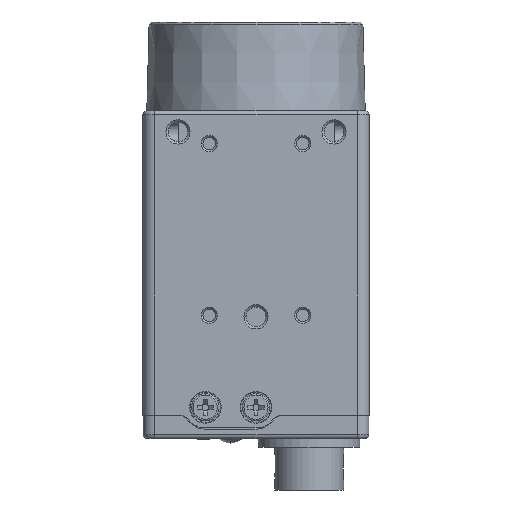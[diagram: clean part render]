
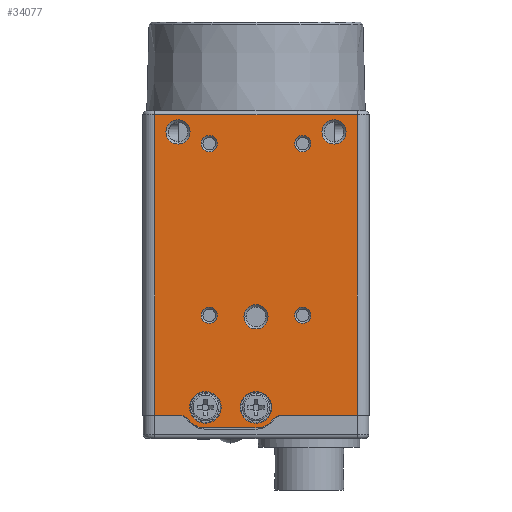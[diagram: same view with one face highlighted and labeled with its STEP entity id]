
A CAD part, front view. The second image highlights one B-rep face of the part: STEP entity #34077.
In plain terms, the highlighted planar face has unit normal (0, -1, 0).
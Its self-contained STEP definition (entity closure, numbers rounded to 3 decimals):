
#4117=DIRECTION('',(0.,0.,1.));
#4118=VECTOR('',#4117,38.5);
#4119=CARTESIAN_POINT('',(13.,-14.5,-39.));
#4120=LINE('',#4119,#4118);
#4131=CARTESIAN_POINT('',(-6.5,-14.5,-38.));
#4132=DIRECTION('',(0.,1.,0.));
#4133=DIRECTION('',(0.,0.,-1.));
#4134=AXIS2_PLACEMENT_3D('',#4131,#4132,#4133);
#4139=CARTESIAN_POINT('',(-9.812,-14.5,-40.5));
#4140=DIRECTION('',(0.,-1.,0.));
#4141=DIRECTION('',(0.798,0.,0.602));
#4142=AXIS2_PLACEMENT_3D('',#4139,#4140,#4141);
#4147=DIRECTION('',(-1.,0.,0.));
#4148=VECTOR('',#4147,3.188);
#4149=CARTESIAN_POINT('',(-9.812,-14.5,-39.));
#4150=LINE('',#4149,#4148);
#4154=DIRECTION('',(-1.,0.,0.));
#4155=VECTOR('',#4154,9.688);
#4156=CARTESIAN_POINT('',(13.,-14.5,-39.));
#4157=LINE('',#4156,#4155);
#4161=CARTESIAN_POINT('',(3.312,-14.5,-40.5));
#4162=DIRECTION('',(0.,-1.,0.));
#4163=DIRECTION('',(0.,0.,1.));
#4164=AXIS2_PLACEMENT_3D('',#4161,#4162,#4163);
#4169=CARTESIAN_POINT('',(0.,-14.5,-38.));
#4170=DIRECTION('',(0.,1.,0.));
#4171=DIRECTION('',(0.798,0.,-0.602));
#4172=AXIS2_PLACEMENT_3D('',#4169,#4170,#4171);
#4177=DIRECTION('',(-1.,0.,0.));
#4178=VECTOR('',#4177,6.5);
#4179=CARTESIAN_POINT('',(0.,-14.5,-40.65));
#4180=LINE('',#4179,#4178);
#4184=CARTESIAN_POINT('',(-6.5,-14.5,-38.));
#4185=DIRECTION('',(0.,-1.,0.));
#4186=DIRECTION('',(0.,0.,1.));
#4187=AXIS2_PLACEMENT_3D('',#4184,#4185,#4186);
#4192=CARTESIAN_POINT('',(-6.5,-14.5,-38.));
#4193=DIRECTION('',(0.,-1.,0.));
#4194=DIRECTION('',(0.,0.,-1.));
#4195=AXIS2_PLACEMENT_3D('',#4192,#4193,#4194);
#4200=CARTESIAN_POINT('',(10.,-14.5,-2.7));
#4201=DIRECTION('',(0.,-1.,0.));
#4202=DIRECTION('',(0.,0.,-1.));
#4203=AXIS2_PLACEMENT_3D('',#4200,#4201,#4202);
#4208=CARTESIAN_POINT('',(10.,-14.5,-2.7));
#4209=DIRECTION('',(0.,-1.,0.));
#4210=DIRECTION('',(0.,0.,1.));
#4211=AXIS2_PLACEMENT_3D('',#4208,#4209,#4210);
#4216=CARTESIAN_POINT('',(6.,-14.5,-4.2));
#4217=DIRECTION('',(0.,-1.,0.));
#4218=DIRECTION('',(0.,0.,-1.));
#4219=AXIS2_PLACEMENT_3D('',#4216,#4217,#4218);
#4224=CARTESIAN_POINT('',(6.,-14.5,-4.2));
#4225=DIRECTION('',(0.,-1.,0.));
#4226=DIRECTION('',(0.,0.,1.));
#4227=AXIS2_PLACEMENT_3D('',#4224,#4225,#4226);
#4232=CARTESIAN_POINT('',(-6.,-14.5,-4.2));
#4233=DIRECTION('',(0.,-1.,0.));
#4234=DIRECTION('',(0.,0.,-1.));
#4235=AXIS2_PLACEMENT_3D('',#4232,#4233,#4234);
#4240=CARTESIAN_POINT('',(-6.,-14.5,-4.2));
#4241=DIRECTION('',(0.,-1.,0.));
#4242=DIRECTION('',(0.,0.,1.));
#4243=AXIS2_PLACEMENT_3D('',#4240,#4241,#4242);
#4248=CARTESIAN_POINT('',(-10.,-14.5,-2.7));
#4249=DIRECTION('',(0.,-1.,0.));
#4250=DIRECTION('',(0.,0.,-1.));
#4251=AXIS2_PLACEMENT_3D('',#4248,#4249,#4250);
#4256=CARTESIAN_POINT('',(-10.,-14.5,-2.7));
#4257=DIRECTION('',(0.,-1.,0.));
#4258=DIRECTION('',(0.,0.,1.));
#4259=AXIS2_PLACEMENT_3D('',#4256,#4257,#4258);
#4264=CARTESIAN_POINT('',(0.,-14.5,-38.));
#4265=DIRECTION('',(0.,-1.,0.));
#4266=DIRECTION('',(0.,0.,1.));
#4267=AXIS2_PLACEMENT_3D('',#4264,#4265,#4266);
#4272=CARTESIAN_POINT('',(0.,-14.5,-38.));
#4273=DIRECTION('',(0.,-1.,0.));
#4274=DIRECTION('',(0.,0.,-1.));
#4275=AXIS2_PLACEMENT_3D('',#4272,#4273,#4274);
#4280=CARTESIAN_POINT('',(6.,-14.5,-26.2));
#4281=DIRECTION('',(0.,-1.,0.));
#4282=DIRECTION('',(1.,0.,0.));
#4283=AXIS2_PLACEMENT_3D('',#4280,#4281,#4282);
#4288=CARTESIAN_POINT('',(6.,-14.5,-26.2));
#4289=DIRECTION('',(0.,-1.,0.));
#4290=DIRECTION('',(-1.,0.,0.));
#4291=AXIS2_PLACEMENT_3D('',#4288,#4289,#4290);
#4296=CARTESIAN_POINT('',(-6.,-14.5,-26.2));
#4297=DIRECTION('',(0.,-1.,0.));
#4298=DIRECTION('',(1.,0.,0.));
#4299=AXIS2_PLACEMENT_3D('',#4296,#4297,#4298);
#4304=CARTESIAN_POINT('',(-6.,-14.5,-26.2));
#4305=DIRECTION('',(0.,-1.,0.));
#4306=DIRECTION('',(-1.,0.,0.));
#4307=AXIS2_PLACEMENT_3D('',#4304,#4305,#4306);
#4312=CARTESIAN_POINT('',(0.,-14.5,-26.4));
#4313=DIRECTION('',(0.,-1.,0.));
#4314=DIRECTION('',(1.,0.,0.));
#4315=AXIS2_PLACEMENT_3D('',#4312,#4313,#4314);
#4320=CARTESIAN_POINT('',(0.,-14.5,-26.4));
#4321=DIRECTION('',(0.,-1.,0.));
#4322=DIRECTION('',(-1.,0.,0.));
#4323=AXIS2_PLACEMENT_3D('',#4320,#4321,#4322);
#5290=DIRECTION('',(0.,0.,-1.));
#5291=VECTOR('',#5290,38.5);
#5292=CARTESIAN_POINT('',(-13.,-14.5,-0.5));
#5293=LINE('',#5292,#5291);
#6288=DIRECTION('',(-1.,0.,0.));
#6289=VECTOR('',#6288,26.);
#6290=CARTESIAN_POINT('',(13.,-14.5,-0.5));
#6291=LINE('',#6290,#6289);
#27362=CARTESIAN_POINT('',(-13.,-14.5,-39.));
#27363=VERTEX_POINT('',#27362);
#27364=CARTESIAN_POINT('',(-9.812,-14.5,-39.));
#27365=VERTEX_POINT('',#27364);
#27366=CARTESIAN_POINT('',(13.,-14.5,-39.));
#27367=CARTESIAN_POINT('',(3.312,-14.5,-39.));
#27368=VERTEX_POINT('',#27366);
#27369=VERTEX_POINT('',#27367);
#27386=CARTESIAN_POINT('',(13.,-14.5,-0.5));
#27387=VERTEX_POINT('',#27386);
#27388=CARTESIAN_POINT('',(-6.5,-14.5,-40.65));
#27389=CARTESIAN_POINT('',(-8.615,-14.5,-39.596));
#27390=VERTEX_POINT('',#27388);
#27391=VERTEX_POINT('',#27389);
#27392=CARTESIAN_POINT('',(-13.,-14.5,-0.5));
#27393=VERTEX_POINT('',#27392);
#27394=CARTESIAN_POINT('',(2.115,-14.5,-39.596));
#27395=VERTEX_POINT('',#27394);
#27396=CARTESIAN_POINT('',(0.,-14.5,-40.65));
#27397=VERTEX_POINT('',#27396);
#27398=CARTESIAN_POINT('',(-6.5,-14.5,-35.971));
#27399=CARTESIAN_POINT('',(-6.5,-14.5,-40.029));
#27400=VERTEX_POINT('',#27398);
#27401=VERTEX_POINT('',#27399);
#27402=CARTESIAN_POINT('',(10.,-14.5,-4.25));
#27403=CARTESIAN_POINT('',(10.,-14.5,-1.15));
#27404=VERTEX_POINT('',#27402);
#27405=VERTEX_POINT('',#27403);
#27406=CARTESIAN_POINT('',(6.,-14.5,-5.25));
#27407=CARTESIAN_POINT('',(6.,-14.5,-3.15));
#27408=VERTEX_POINT('',#27406);
#27409=VERTEX_POINT('',#27407);
#27410=CARTESIAN_POINT('',(-6.,-14.5,-5.25));
#27411=CARTESIAN_POINT('',(-6.,-14.5,-3.15));
#27412=VERTEX_POINT('',#27410);
#27413=VERTEX_POINT('',#27411);
#27414=CARTESIAN_POINT('',(-10.,-14.5,-4.25));
#27415=CARTESIAN_POINT('',(-10.,-14.5,-1.15));
#27416=VERTEX_POINT('',#27414);
#27417=VERTEX_POINT('',#27415);
#27418=CARTESIAN_POINT('',(0.,-14.5,-35.971));
#27419=CARTESIAN_POINT('',(0.,-14.5,-40.029));
#27420=VERTEX_POINT('',#27418);
#27421=VERTEX_POINT('',#27419);
#31241=CARTESIAN_POINT('',(7.05,-14.5,-26.2));
#31242=CARTESIAN_POINT('',(4.95,-14.5,-26.2));
#31243=VERTEX_POINT('',#31241);
#31244=VERTEX_POINT('',#31242);
#31245=CARTESIAN_POINT('',(-4.95,-14.5,-26.2));
#31246=CARTESIAN_POINT('',(-7.05,-14.5,-26.2));
#31247=VERTEX_POINT('',#31245);
#31248=VERTEX_POINT('',#31246);
#31249=CARTESIAN_POINT('',(1.55,-14.5,-26.4));
#31250=CARTESIAN_POINT('',(-1.55,-14.5,-26.4));
#31251=VERTEX_POINT('',#31249);
#31252=VERTEX_POINT('',#31250);
#33999=CARTESIAN_POINT('',(-14.5,-14.5,0.));
#34000=DIRECTION('',(0.,-1.,0.));
#34001=DIRECTION('',(1.,0.,0.));
#34002=AXIS2_PLACEMENT_3D('',#33999,#34000,#34001);
#34003=PLANE('',#34002);
#34005=ORIENTED_EDGE('',*,*,#34004,.T.);
#34007=ORIENTED_EDGE('',*,*,#34006,.T.);
#34008=ORIENTED_EDGE('',*,*,#33489,.T.);
#34010=ORIENTED_EDGE('',*,*,#34009,.F.);
#34012=ORIENTED_EDGE('',*,*,#34011,.F.);
#34013=ORIENTED_EDGE('',*,*,#33990,.F.);
#34014=ORIENTED_EDGE('',*,*,#33447,.T.);
#34016=ORIENTED_EDGE('',*,*,#34015,.T.);
#34018=ORIENTED_EDGE('',*,*,#34017,.T.);
#34020=ORIENTED_EDGE('',*,*,#34019,.T.);
#34021=EDGE_LOOP('',(#34005,#34007,#34008,#34010,#34012,#34013,#34014,#34016,
#34018,#34020));
#34022=FACE_OUTER_BOUND('',#34021,.F.);
#34024=ORIENTED_EDGE('',*,*,#34023,.T.);
#34026=ORIENTED_EDGE('',*,*,#34025,.T.);
#34027=EDGE_LOOP('',(#34024,#34026));
#34028=FACE_BOUND('',#34027,.F.);
#34030=ORIENTED_EDGE('',*,*,#34029,.T.);
#34032=ORIENTED_EDGE('',*,*,#34031,.T.);
#34033=EDGE_LOOP('',(#34030,#34032));
#34034=FACE_BOUND('',#34033,.F.);
#34036=ORIENTED_EDGE('',*,*,#34035,.T.);
#34038=ORIENTED_EDGE('',*,*,#34037,.T.);
#34039=EDGE_LOOP('',(#34036,#34038));
#34040=FACE_BOUND('',#34039,.F.);
#34042=ORIENTED_EDGE('',*,*,#34041,.T.);
#34044=ORIENTED_EDGE('',*,*,#34043,.T.);
#34045=EDGE_LOOP('',(#34042,#34044));
#34046=FACE_BOUND('',#34045,.F.);
#34048=ORIENTED_EDGE('',*,*,#34047,.T.);
#34050=ORIENTED_EDGE('',*,*,#34049,.T.);
#34051=EDGE_LOOP('',(#34048,#34050));
#34052=FACE_BOUND('',#34051,.F.);
#34054=ORIENTED_EDGE('',*,*,#34053,.T.);
#34056=ORIENTED_EDGE('',*,*,#34055,.T.);
#34057=EDGE_LOOP('',(#34054,#34056));
#34058=FACE_BOUND('',#34057,.F.);
#34060=ORIENTED_EDGE('',*,*,#34059,.T.);
#34062=ORIENTED_EDGE('',*,*,#34061,.T.);
#34063=EDGE_LOOP('',(#34060,#34062));
#34064=FACE_BOUND('',#34063,.F.);
#34066=ORIENTED_EDGE('',*,*,#34065,.T.);
#34068=ORIENTED_EDGE('',*,*,#34067,.T.);
#34069=EDGE_LOOP('',(#34066,#34068));
#34070=FACE_BOUND('',#34069,.F.);
#34072=ORIENTED_EDGE('',*,*,#34071,.T.);
#34074=ORIENTED_EDGE('',*,*,#34073,.T.);
#34075=EDGE_LOOP('',(#34072,#34074));
#34076=FACE_BOUND('',#34075,.F.);
#4135=CIRCLE('',#4134,2.65);
#4143=CIRCLE('',#4142,1.5);
#4165=CIRCLE('',#4164,1.5);
#4173=CIRCLE('',#4172,2.65);
#4188=CIRCLE('',#4187,2.029);
#4196=CIRCLE('',#4195,2.029);
#4204=CIRCLE('',#4203,1.55);
#4212=CIRCLE('',#4211,1.55);
#4220=CIRCLE('',#4219,1.05);
#4228=CIRCLE('',#4227,1.05);
#4236=CIRCLE('',#4235,1.05);
#4244=CIRCLE('',#4243,1.05);
#4252=CIRCLE('',#4251,1.55);
#4260=CIRCLE('',#4259,1.55);
#4268=CIRCLE('',#4267,2.029);
#4276=CIRCLE('',#4275,2.029);
#4284=CIRCLE('',#4283,1.05);
#4292=CIRCLE('',#4291,1.05);
#4300=CIRCLE('',#4299,1.05);
#4308=CIRCLE('',#4307,1.05);
#4316=CIRCLE('',#4315,1.55);
#4324=CIRCLE('',#4323,1.55);
#33447=EDGE_CURVE('',#27368,#27369,#4157,.T.);
#33489=EDGE_CURVE('',#27365,#27363,#4150,.T.);
#33990=EDGE_CURVE('',#27368,#27387,#4120,.T.);
#34004=EDGE_CURVE('',#27390,#27391,#4135,.T.);
#34006=EDGE_CURVE('',#27391,#27365,#4143,.T.);
#34009=EDGE_CURVE('',#27393,#27363,#5293,.T.);
#34011=EDGE_CURVE('',#27387,#27393,#6291,.T.);
#34015=EDGE_CURVE('',#27369,#27395,#4165,.T.);
#34017=EDGE_CURVE('',#27395,#27397,#4173,.T.);
#34019=EDGE_CURVE('',#27397,#27390,#4180,.T.);
#34023=EDGE_CURVE('',#27400,#27401,#4188,.T.);
#34025=EDGE_CURVE('',#27401,#27400,#4196,.T.);
#34029=EDGE_CURVE('',#27404,#27405,#4204,.T.);
#34031=EDGE_CURVE('',#27405,#27404,#4212,.T.);
#34035=EDGE_CURVE('',#27408,#27409,#4220,.T.);
#34037=EDGE_CURVE('',#27409,#27408,#4228,.T.);
#34041=EDGE_CURVE('',#27412,#27413,#4236,.T.);
#34043=EDGE_CURVE('',#27413,#27412,#4244,.T.);
#34047=EDGE_CURVE('',#27416,#27417,#4252,.T.);
#34049=EDGE_CURVE('',#27417,#27416,#4260,.T.);
#34053=EDGE_CURVE('',#27420,#27421,#4268,.T.);
#34055=EDGE_CURVE('',#27421,#27420,#4276,.T.);
#34059=EDGE_CURVE('',#31243,#31244,#4284,.T.);
#34061=EDGE_CURVE('',#31244,#31243,#4292,.T.);
#34065=EDGE_CURVE('',#31247,#31248,#4300,.T.);
#34067=EDGE_CURVE('',#31248,#31247,#4308,.T.);
#34071=EDGE_CURVE('',#31251,#31252,#4316,.T.);
#34073=EDGE_CURVE('',#31252,#31251,#4324,.T.);
#34077=ADVANCED_FACE('',(#34022,#34028,#34034,#34040,#34046,#34052,#34058,
#34064,#34070,#34076),#34003,.T.);
